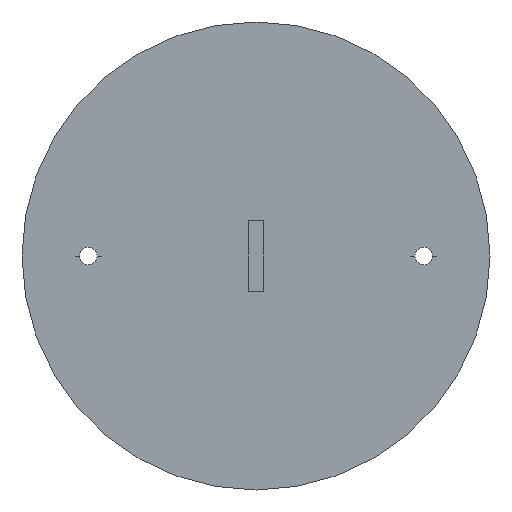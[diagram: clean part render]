
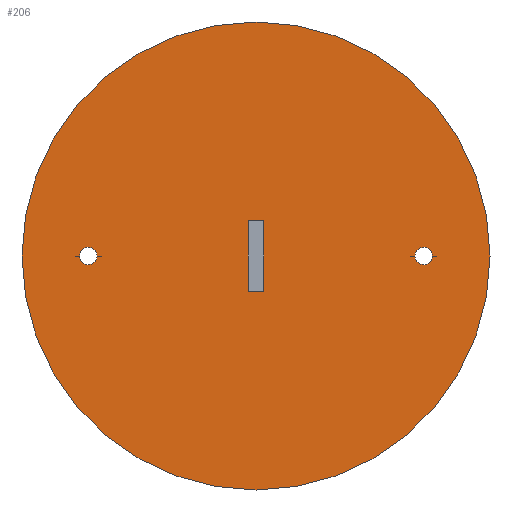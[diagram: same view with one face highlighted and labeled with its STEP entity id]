
A CAD part, front view. The second image highlights one B-rep face of the part: STEP entity #206.
In plain terms, the highlighted planar face has unit normal (0, -1, 0).
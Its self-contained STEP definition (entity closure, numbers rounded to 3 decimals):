
#1=CARTESIAN_POINT('',(0.,0.,0.));
#2=DIRECTION('',(0.,1.,0.));
#3=DIRECTION('',(1.,0.,0.));
#4=AXIS2_PLACEMENT_3D('',#1,#2,#3);
#6=CARTESIAN_POINT('',(0.,0.,0.));
#7=DIRECTION('',(0.,1.,0.));
#8=DIRECTION('',(-1.,0.,0.));
#9=AXIS2_PLACEMENT_3D('',#6,#7,#8);
#11=DIRECTION('',(-1.,0.,0.));
#12=VECTOR('',#11,4.);
#13=CARTESIAN_POINT('',(2.,0.,9.));
#14=LINE('',#13,#12);
#15=DIRECTION('',(0.,0.,-1.));
#16=VECTOR('',#15,18.);
#17=CARTESIAN_POINT('',(-2.,0.,9.));
#18=LINE('',#17,#16);
#19=DIRECTION('',(1.,0.,0.));
#20=VECTOR('',#19,4.);
#21=CARTESIAN_POINT('',(-2.,0.,-9.));
#22=LINE('',#21,#20);
#23=DIRECTION('',(0.,0.,1.));
#24=VECTOR('',#23,18.);
#25=CARTESIAN_POINT('',(2.,0.,-9.));
#26=LINE('',#25,#24);
#27=CARTESIAN_POINT('',(-43.,0.,0.));
#28=DIRECTION('',(0.,1.,0.));
#29=DIRECTION('',(-1.,0.,0.));
#30=AXIS2_PLACEMENT_3D('',#27,#28,#29);
#32=CARTESIAN_POINT('',(-43.,0.,0.));
#33=DIRECTION('',(0.,1.,0.));
#34=DIRECTION('',(1.,0.,0.));
#35=AXIS2_PLACEMENT_3D('',#32,#33,#34);
#37=CARTESIAN_POINT('',(43.,0.,0.));
#38=DIRECTION('',(0.,1.,0.));
#39=DIRECTION('',(-1.,0.,0.));
#40=AXIS2_PLACEMENT_3D('',#37,#38,#39);
#42=CARTESIAN_POINT('',(43.,0.,0.));
#43=DIRECTION('',(0.,1.,0.));
#44=DIRECTION('',(1.,0.,0.));
#45=AXIS2_PLACEMENT_3D('',#42,#43,#44);
#133=CARTESIAN_POINT('',(60.,0.,0.));
#134=CARTESIAN_POINT('',(-60.,0.,0.));
#135=VERTEX_POINT('',#133);
#136=VERTEX_POINT('',#134);
#141=CARTESIAN_POINT('',(2.,0.,9.));
#142=CARTESIAN_POINT('',(-2.,0.,9.));
#143=VERTEX_POINT('',#141);
#144=VERTEX_POINT('',#142);
#145=CARTESIAN_POINT('',(-2.,0.,-9.));
#146=VERTEX_POINT('',#145);
#147=CARTESIAN_POINT('',(2.,0.,-9.));
#148=VERTEX_POINT('',#147);
#157=CARTESIAN_POINT('',(-45.25,0.,0.));
#158=CARTESIAN_POINT('',(-40.75,0.,0.));
#159=VERTEX_POINT('',#157);
#160=VERTEX_POINT('',#158);
#165=CARTESIAN_POINT('',(40.75,0.,0.));
#166=CARTESIAN_POINT('',(45.25,0.,0.));
#167=VERTEX_POINT('',#165);
#168=VERTEX_POINT('',#166);
#173=CARTESIAN_POINT('',(0.,0.,0.));
#174=DIRECTION('',(0.,1.,0.));
#175=DIRECTION('',(1.,0.,0.));
#176=AXIS2_PLACEMENT_3D('',#173,#174,#175);
#177=PLANE('',#176);
#179=ORIENTED_EDGE('',*,*,#178,.T.);
#181=ORIENTED_EDGE('',*,*,#180,.T.);
#182=EDGE_LOOP('',(#179,#181));
#183=FACE_OUTER_BOUND('',#182,.F.);
#185=ORIENTED_EDGE('',*,*,#184,.T.);
#187=ORIENTED_EDGE('',*,*,#186,.T.);
#189=ORIENTED_EDGE('',*,*,#188,.T.);
#191=ORIENTED_EDGE('',*,*,#190,.T.);
#192=EDGE_LOOP('',(#185,#187,#189,#191));
#193=FACE_BOUND('',#192,.F.);
#195=ORIENTED_EDGE('',*,*,#194,.F.);
#197=ORIENTED_EDGE('',*,*,#196,.F.);
#198=EDGE_LOOP('',(#195,#197));
#199=FACE_BOUND('',#198,.F.);
#201=ORIENTED_EDGE('',*,*,#200,.F.);
#203=ORIENTED_EDGE('',*,*,#202,.F.);
#204=EDGE_LOOP('',(#201,#203));
#205=FACE_BOUND('',#204,.F.);
#206=ADVANCED_FACE('',(#183,#193,#199,#205),#177,.F.);
#5=CIRCLE('',#4,60.);
#10=CIRCLE('',#9,60.);
#31=CIRCLE('',#30,2.25);
#36=CIRCLE('',#35,2.25);
#41=CIRCLE('',#40,2.25);
#46=CIRCLE('',#45,2.25);
#178=EDGE_CURVE('',#135,#136,#5,.T.);
#180=EDGE_CURVE('',#136,#135,#10,.T.);
#184=EDGE_CURVE('',#143,#144,#14,.T.);
#186=EDGE_CURVE('',#144,#146,#18,.T.);
#188=EDGE_CURVE('',#146,#148,#22,.T.);
#190=EDGE_CURVE('',#148,#143,#26,.T.);
#194=EDGE_CURVE('',#159,#160,#31,.T.);
#196=EDGE_CURVE('',#160,#159,#36,.T.);
#200=EDGE_CURVE('',#167,#168,#41,.T.);
#202=EDGE_CURVE('',#168,#167,#46,.T.);
